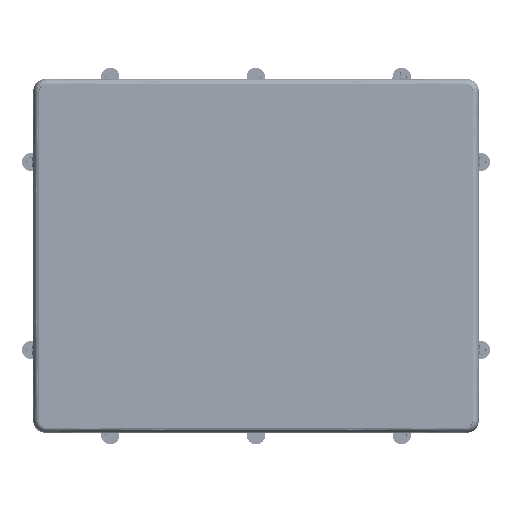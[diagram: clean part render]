
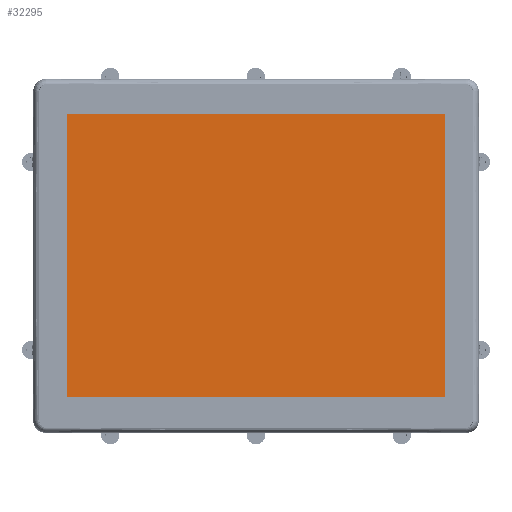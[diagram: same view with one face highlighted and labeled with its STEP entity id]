
A CAD part, top view. The second image highlights one B-rep face of the part: STEP entity #32295.
In plain terms, the highlighted planar face has unit normal (0, 0, 1).
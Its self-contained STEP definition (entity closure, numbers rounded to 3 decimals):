
#7160=DIRECTION('',(0.,-1.,0.));
#7161=VECTOR('',#7160,228.9);
#7162=CARTESIAN_POINT('',(-152.5,114.45,5.92));
#7163=LINE('',#7162,#7161);
#7176=DIRECTION('',(1.,0.,0.));
#7177=VECTOR('',#7176,305.);
#7178=CARTESIAN_POINT('',(-152.5,-114.45,5.92));
#7179=LINE('',#7178,#7177);
#7188=DIRECTION('',(0.,1.,0.));
#7189=VECTOR('',#7188,228.9);
#7190=CARTESIAN_POINT('',(152.5,-114.45,5.92));
#7191=LINE('',#7190,#7189);
#7200=DIRECTION('',(-1.,0.,0.));
#7201=VECTOR('',#7200,305.);
#7202=CARTESIAN_POINT('',(152.5,114.45,5.92));
#7203=LINE('',#7202,#7201);
#23533=CARTESIAN_POINT('',(152.5,114.45,5.92));
#23534=CARTESIAN_POINT('',(-152.5,114.45,5.92));
#23535=VERTEX_POINT('',#23533);
#23536=VERTEX_POINT('',#23534);
#23537=CARTESIAN_POINT('',(152.5,-114.45,5.92));
#23538=VERTEX_POINT('',#23537);
#23539=CARTESIAN_POINT('',(-152.5,-114.45,5.92));
#23540=VERTEX_POINT('',#23539);
#32284=CARTESIAN_POINT('',(0.,0.,5.92));
#32285=DIRECTION('',(0.,0.,1.));
#32286=DIRECTION('',(1.,0.,0.));
#32287=AXIS2_PLACEMENT_3D('',#32284,#32285,#32286);
#32288=PLANE('',#32287);
#32289=ORIENTED_EDGE('',*,*,#32272,.F.);
#32290=ORIENTED_EDGE('',*,*,#32252,.F.);
#32291=ORIENTED_EDGE('',*,*,#32231,.F.);
#32292=ORIENTED_EDGE('',*,*,#32210,.F.);
#32293=EDGE_LOOP('',(#32289,#32290,#32291,#32292));
#32294=FACE_OUTER_BOUND('',#32293,.F.);
#32295=ADVANCED_FACE('',(#32294),#32288,.T.);
#32210=EDGE_CURVE('',#23536,#23540,#7163,.T.);
#32231=EDGE_CURVE('',#23540,#23538,#7179,.T.);
#32252=EDGE_CURVE('',#23538,#23535,#7191,.T.);
#32272=EDGE_CURVE('',#23535,#23536,#7203,.T.);
